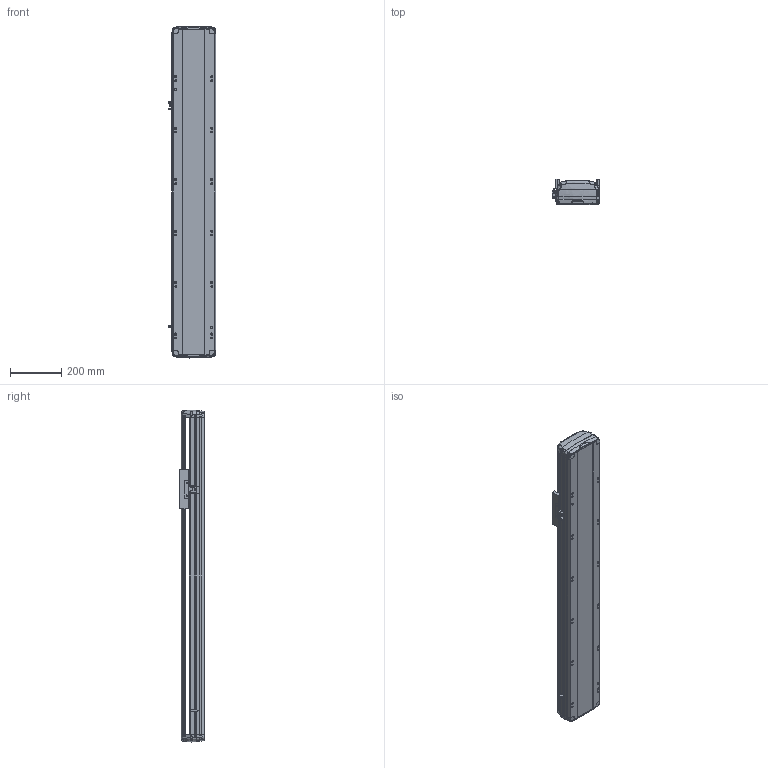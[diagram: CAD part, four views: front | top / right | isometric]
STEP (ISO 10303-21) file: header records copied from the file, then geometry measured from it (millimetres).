
FILE_DESCRIPTION (( 'STEP AP214' ), '1' );
FILE_NAME ('RTH17-XX-850-B-M40B-C4.STEP', '2025-10-24T09:17:39', ( '' ), ( '' ), 'SwSTEP 2.0', 'SolidWorks 2018', '' );
FILE_SCHEMA (( 'AUTOMOTIVE_DESIGN' ));
Length unit declared in the file: millimetre
Products named in the file (7): N_OMRON EE-SX672 換覜ん^RTH17-XX-XX-B-M40B-C4ㄗ源最宒ㄘ; N_RTH17-M-007B上盖^RTH17-XX-XX-B-M40B-C4（方程式）; N_RTH-L-012 感应片(外置)^RTH17-XX-XX-B-M40B-C4（方程式）; RTH17-XX-850-B-M40B-C4; N_RTH17-M-011B底座^RTH17-XX-XX-B-M40B-C4（方程式）; N_RTH17-GY-001P^RTH17-XX-XX-B-M40B-C4（方程式）; N_RTH17-E-004丝杆螺母连接座^RTH17-XX-XX-B-M40B-C4（方程式）
Assembly tree (9 placements, depth 2):
  RTH17-XX-850-B-M40B-C4
    N_RTH17-M-011B底座^RTH17-XX-XX-B-M40B-C4（方程式）
    N_RTH17-M-007B上盖^RTH17-XX-XX-B-M40B-C4（方程式）
    N_OMRON EE-SX672 換覜ん^RTH17-XX-XX-B-M40B-C4ㄗ源最宒ㄘ  x3
    N_RTH-L-012 感应片(外置)^RTH17-XX-XX-B-M40B-C4（方程式）
    N_RTH17-E-004丝杆螺母连接座^RTH17-XX-XX-B-M40B-C4（方程式）
    N_RTH17-GY-001P^RTH17-XX-XX-B-M40B-C4（方程式）  x2
Bounding box: 183.5 x 97 x 1289.88 mm (x, y, z)
Volume: 9434494.2 mm3; surface area: 1297975.9 mm2
Topology: 7 solids, 11 shells, 1736 faces, 4880 edges, 3170 vertices
Faces by surface type: plane 811, cylinder 459, bspline 420, cone 28, torus 18
Entity records: 41046 total; most frequent: CARTESIAN_POINT 17043, ORIENTED_EDGE 5264, DIRECTION 4156, EDGE_CURVE 2636, VERTEX_POINT 1724, LINE 1436, VECTOR 1436, AXIS2_PLACEMENT_3D 1360
